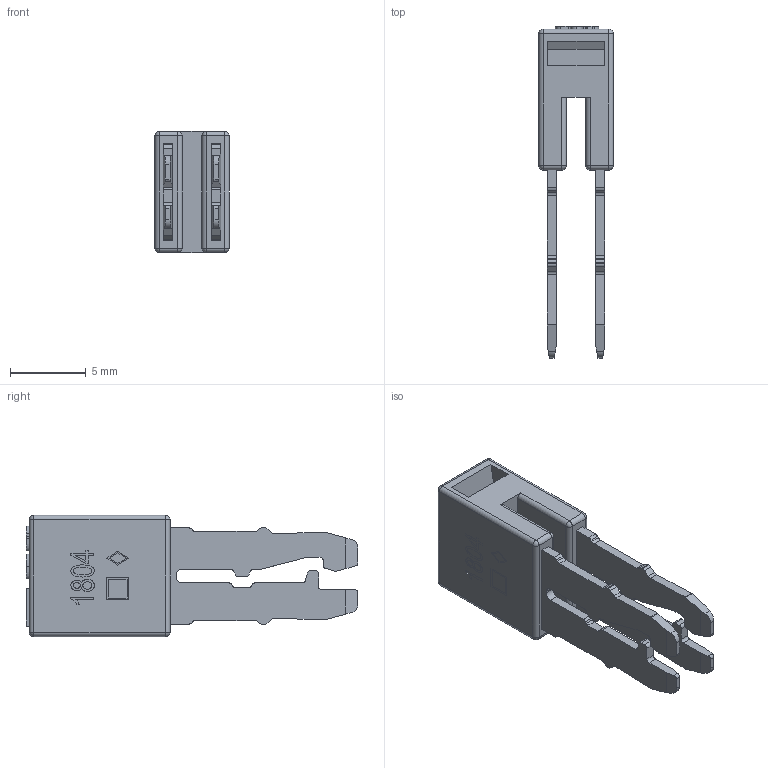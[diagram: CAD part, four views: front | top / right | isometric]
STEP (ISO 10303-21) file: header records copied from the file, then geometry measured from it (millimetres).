
FILE_DESCRIPTION (( 'STEP AP203' ), '1' );
FILE_NAME ('晑虮.685168.038.STEP', '2019-12-24T13:21:06', ( '' ), ( '' ), 'SwSTEP 2.0', 'SolidWorks 2016', '' );
FILE_SCHEMA (( 'CONFIG_CONTROL_DESIGN' ));
Length unit declared in the file: millimetre
Products named in the file (3): Êîíòàêò ìîñòèêà ñîåäèíèòåëüíîãî; 麧謷.膰艜魛蠉; 晑虮.685168.038
Assembly tree (2 placements, depth 2):
  晑虮.685168.038
    麧謷.膰艜魛蠉
    Êîíòàêò ìîñòèêà ñîåäèíèòåëüíîãî
Bounding box: 4.9 x 21.9 x 8 mm (x, y, z)
Volume: 353.4 mm3; surface area: 1106.5 mm2
Topology: 2 solids, 2 shells, 464 faces, 1278 edges, 832 vertices
Faces by surface type: plane 267, cylinder 107, bspline 78, sphere 12
Entity records: 19069 total; most frequent: CARTESIAN_POINT 7397, ORIENTED_EDGE 2532, DIRECTION 2090, EDGE_CURVE 1266, VECTOR 880, LINE 880, VERTEX_POINT 832, AXIS2_PLACEMENT_3D 605
